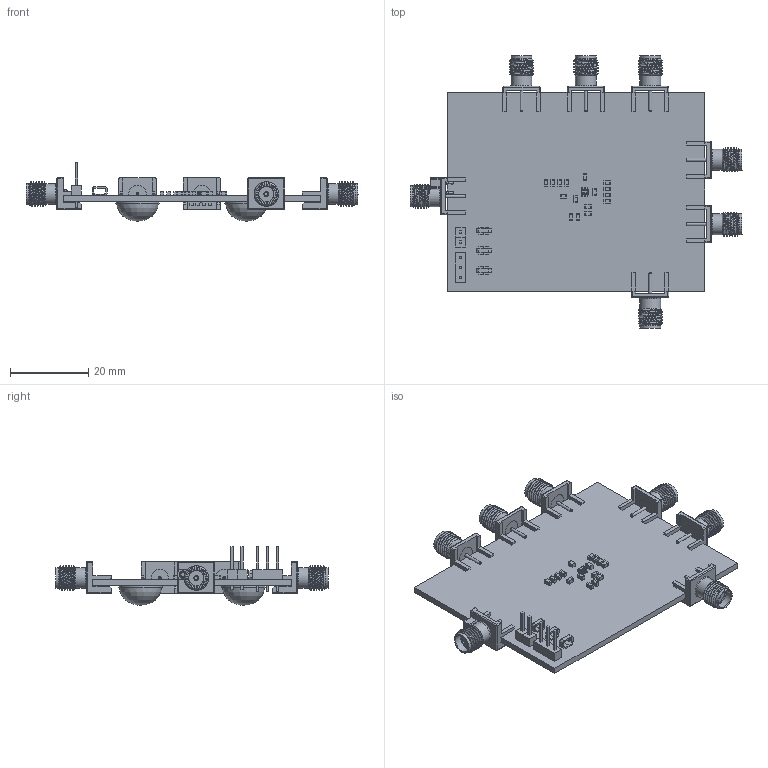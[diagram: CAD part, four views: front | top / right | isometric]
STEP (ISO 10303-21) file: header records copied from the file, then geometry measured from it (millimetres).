
FILE_DESCRIPTION(('Open CASCADE Model'),'2;1');
FILE_NAME('Open CASCADE Shape Model','2026-04-23T10:36:26',('Author'),( 'Open CASCADE'),'Open CASCADE STEP processor 7.5','Open CASCADE 7.5' ,'Unknown');
FILE_SCHEMA(('AUTOMOTIVE_DESIGN { 1 0 10303 214 1 1 1 1 }'));
Length unit declared in the file: millimetre
Products named in the file (80): PCB; Board; Open CASCADE STEP translator 7.5 1.1.1; J3; Conn_0732511150_CONN_RF_JACK; 1; 2; 3; 732511150; J1; J2; J4; J7; J6; J5; J10; Conn_399-43-102-10-003000_HDR2; mill-max-399-13-102-10-003000; mill-max-399-13-102-10-003000.step_P3XX-11-010-00-000000_
P302-11-010-00-000000; mill-max-399-13-102-10-003000.step_1103_1103-0-00-15-00-00-03-0; Mill-Max Logo; R8; 6432887568; Extruded; 6432887408; C12; 6432887168; 6432887008; C11; C10; C9; U2; IC_TLV3601DCK_SC70-6; Texas Instruments; circle; U1; IC_TLV3601DCK_SC70-6_3795857748; 4; Texas Logo Yury - Copy; Texas Logo Yury ...
Assembly tree (152 placements, depth 5):
  PCB
    Board
      Open CASCADE STEP translator 7.5 1.1.1
    J3
      Conn_0732511150_CONN_RF_JACK
        1
        2
        3
        732511150
    J1
      Conn_0732511150_CONN_RF_JACK
        1
        2
        3
        732511150
    J2
      Conn_0732511150_CONN_RF_JACK
        1
        2
        3
        732511150
    J4
      Conn_0732511150_CONN_RF_JACK
        1
        2
        3
        732511150
    J7
      Conn_0732511150_CONN_RF_JACK
        1
        2
        3
        732511150
    J6
      Conn_0732511150_CONN_RF_JACK
        1
        2
        3
        732511150
    J5
      Conn_0732511150_CONN_RF_JACK
        1
        2
        3
        732511150
    J10
      Conn_399-43-102-10-003000_HDR2
        mill-max-399-13-102-10-003000
          mill-max-399-13-102-10-003000.step_P3XX-11-010-00-000000_
P302-11-010-00-000000
          mill-max-399-13-102-10-003000.step_1103_1103-0-00-15-00-00-03-0  x2
          1  x2
          Mill-Max Logo
    R8
      6432887568  x2
        Extruded
      6432887408
        Extruded
    C12
      6432887168  x2
        Extruded
Bounding box: 85.09 x 69.85 x 14.97 mm (x, y, z)
Volume: 8780.1 mm3; surface area: 13765.5 mm2
Topology: 219 solids, 247 shells, 3156 faces, 7446 edges, 4837 vertices
Faces by surface type: plane 2022, cylinder 524, bspline 348, cone 191, sphere 44, torus 23, revolution 4
Full cylindrical faces by diameter (mm): 0.005 x4, 0.25 x1, 0.457 x4, 0.65 x2, 0.762 x14, 0.947 x14, 1.016 x5, 1.092 x4, 1.27 x7, 1.346 x4, 1.422 x4, 1.45 x2, 1.829 x2, 1.9 x2, 3.912 x21, 4.449 x14, 4.644 x7, 5.359 x14, 11.1 x4
Entity records: 58296 total; most frequent: CARTESIAN_POINT 18068, ORIENTED_EDGE 8382, DIRECTION 6869, EDGE_CURVE 4191, LINE 2792, VECTOR 2792, VERTEX_POINT 2741, AXIS2_PLACEMENT_3D 2038
